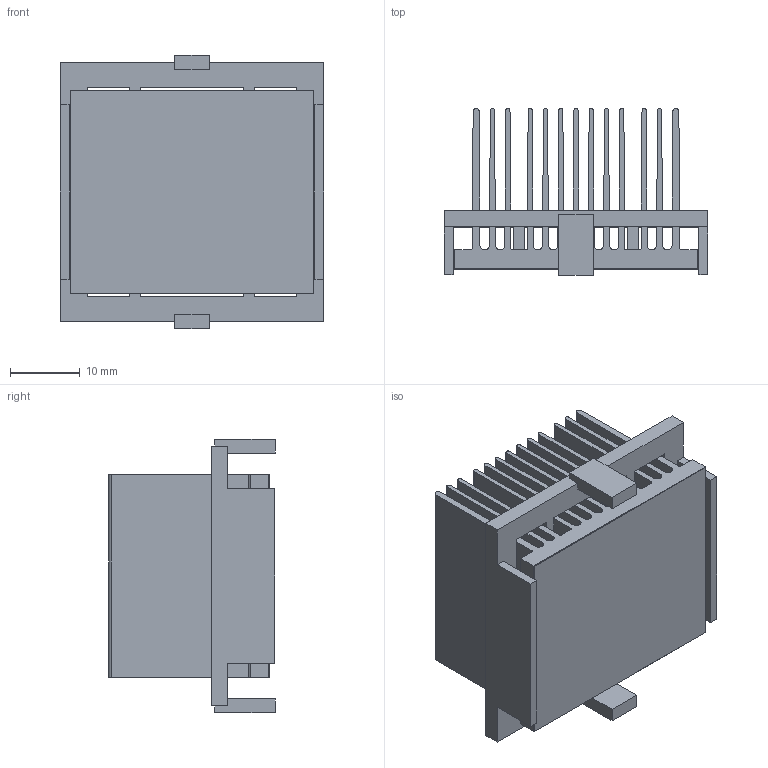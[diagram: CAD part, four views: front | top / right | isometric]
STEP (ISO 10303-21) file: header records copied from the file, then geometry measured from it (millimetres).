
FILE_DESCRIPTION (( 'STEP AP214' ), '1' );
FILE_NAME ('INH35001-23-2.6O.STEP', '2023-02-17T22:49:57', ( '' ), ( '' ), 'SwSTEP 2.0', 'SolidWorks 2020', '' );
FILE_SCHEMA (( 'AUTOMOTIVE_DESIGN' ));
Length unit declared in the file: millimetre
Products named in the file (1): INH35001-23-2.6O
Bounding box: 37.7 x 23.86 x 39.2 mm (x, y, z)
Volume: 10499.3 mm3; surface area: 22506.6 mm2
Topology: 3 solids, 3 shells, 144 faces, 414 edges, 276 vertices
Faces by surface type: plane 105, cylinder 39
Entity records: 6336 total; most frequent: CARTESIAN_POINT 835, ORIENTED_EDGE 828, DIRECTION 782, EDGE_CURVE 414, VECTOR 336, LINE 336, VERTEX_POINT 276, AXIS2_PLACEMENT_3D 223
